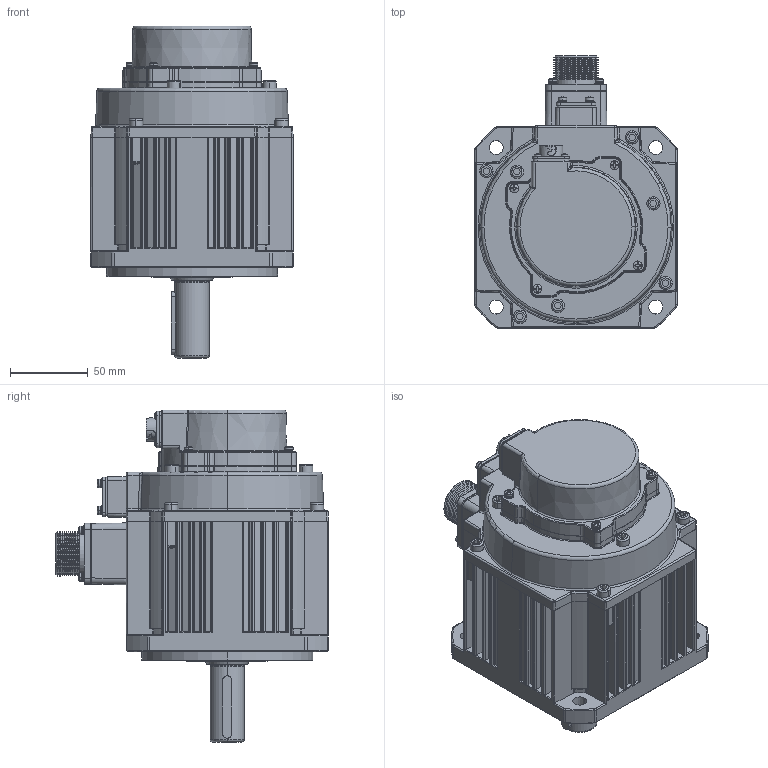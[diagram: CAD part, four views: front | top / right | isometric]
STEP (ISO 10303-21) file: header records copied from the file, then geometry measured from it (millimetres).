
FILE_DESCRIPTION (( 'STEP AP203' ), '1' );
FILE_NAME ('G3-130-5.41NM刹车电机三维图.STEP', '2022-12-19T06:40:49', ( '微软用户' ), ( '微软中国' ), 'SwSTEP 2.0', 'SolidWorks 2016', '' );
FILE_SCHEMA (( 'CONFIG_CONTROL_DESIGN' ));
Products named in the file (1): G3-130-5.41NM刹车电机三维图
Bounding box: 130 x 175.3 x 213.5 mm (x, y, z)
Volume: 635221.1 mm3; surface area: 288203.9 mm2
Topology: 35 solids, 35 shells, 3413 faces, 8521 edges, 5289 vertices
Faces by surface type: plane 1101, cylinder 995, cone 576, bspline 333, torus 305, sphere 103
Entity records: 114553 total; most frequent: CARTESIAN_POINT 34856, ORIENTED_EDGE 16774, DIRECTION 16622, EDGE_CURVE 8387, AXIS2_PLACEMENT_3D 6354, VERTEX_POINT 5257, LINE 3914, VECTOR 3914
